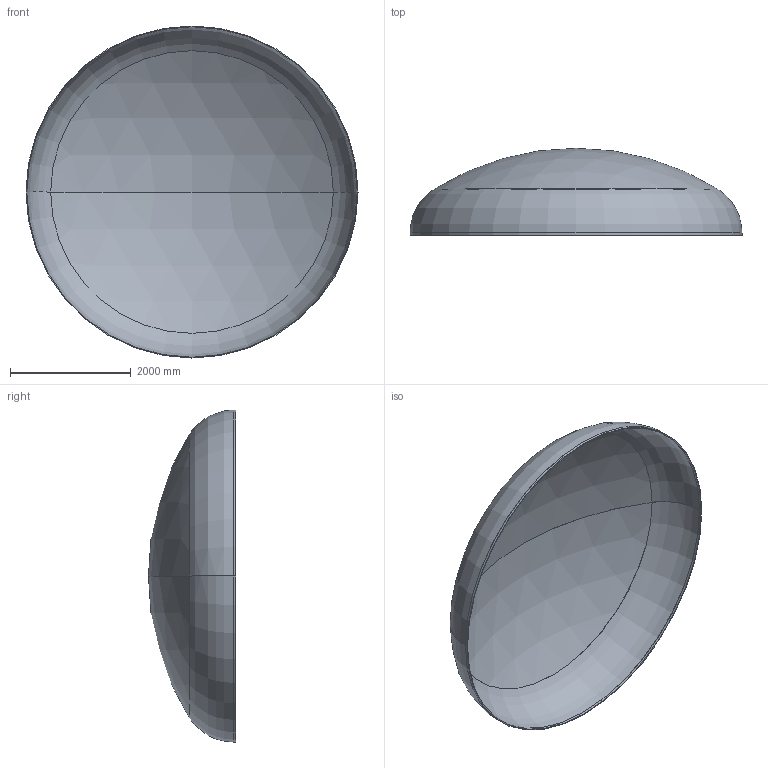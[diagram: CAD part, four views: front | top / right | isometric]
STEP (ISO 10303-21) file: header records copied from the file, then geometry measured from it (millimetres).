
FILE_DESCRIPTION (( 'STEP AP203' ), '1' );
FILE_NAME ('DIN 28013 Korbbogenform_-_Boden DIN 28013 - 5500 x 40 - I - s=13.step', '2016-07-04T10:33:36', ( '' ), ( '' ), 'SwSTEP 2.0', 'SolidWorks 2013', '' );
FILE_SCHEMA (( 'CONFIG_CONTROL_DESIGN' ));
Length unit declared in the file: millimetre
Products named in the file (1): DIN 28013 Korbbogenform_-_Boden DIN 28013 - 5500 x 40 - I - s=13
Bounding box: 5500 x 1443.29 x 5500 mm (x, y, z)
Volume: 435232829.5 mm3; surface area: 67183316.2 mm2
Topology: 1 solids, 1 shells, 13 faces, 24 edges, 14 vertices
Faces by surface type: torus 4, cylinder 4, sphere 4, plane 1
Entity records: 407 total; most frequent: DIRECTION 72, CARTESIAN_POINT 52, ORIENTED_EDGE 48, AXIS2_PLACEMENT_3D 34, EDGE_CURVE 24, CIRCLE 20, EDGE_LOOP 14, VERTEX_POINT 14
